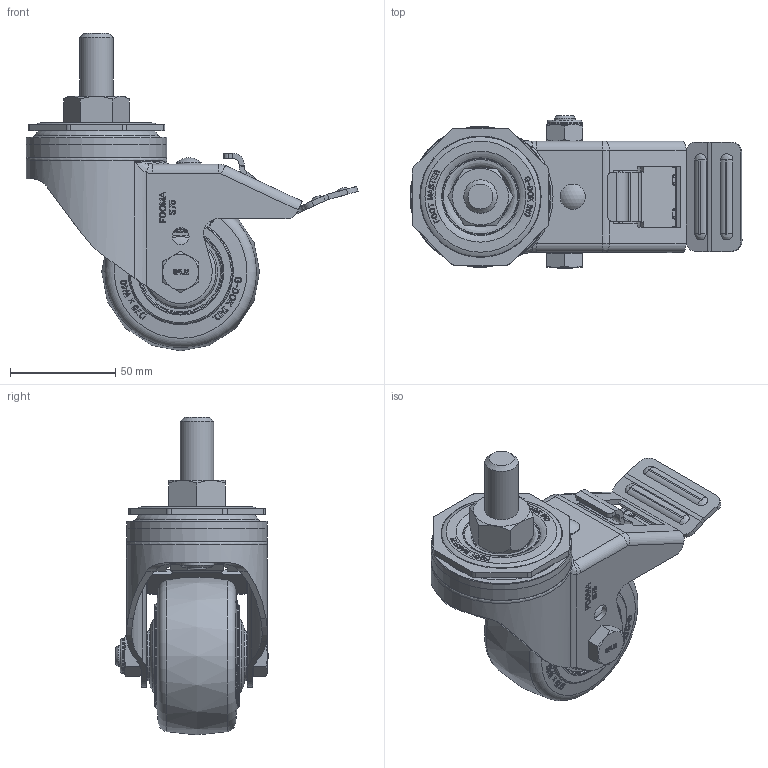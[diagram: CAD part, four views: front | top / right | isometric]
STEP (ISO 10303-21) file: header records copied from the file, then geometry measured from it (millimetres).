
FILE_DESCRIPTION(/* description */ (''),/* implementation_level */ '2;1');
FILE_NAME(/* name */ '\\192.168.10.38\지덕공유\1.기술연구소\2.연구개발 진행중\98.스테인레스캐스터 개발건_2023.10.26\제품설계\3D\홈페이지용\SPLM-75-BSS-HRD.stp',/* time_stamp */ '2025-02-20T15:56:37+09:00',/* author */ ('admin'),/* organization */ ('지덕산업'),/* preprocessor_version */ 'ST-DEVELOPER v18.1',/* originating_system */ 'Autodesk Inventor 2021',/* authorisation */ '');
FILE_SCHEMA (('CONFIG_CONTROL_DESIGN'));
Products named in the file (1): SPLM-75-BSS-HRD
Bounding box: 157.79 x 72.3 x 151 mm (x, y, z)
Volume: 294470.5 mm3; surface area: 68329 mm2
Topology: 1 solids, 1 shells, 1510 faces, 4023 edges, 2622 vertices
Faces by surface type: plane 713, bspline 474, cylinder 180, cone 102, torus 40, sphere 1
Full cylindrical faces by diameter (mm): 6 x1, 8 x2, 9 x1, 10 x2, 11 x1, 12 x1, 15.875 x1, 16 x2, 16.5 x1, 30 x1, 40.105 x1, 40.971 x1, 54 x1, 67 x1
Entity records: 50620 total; most frequent: CARTESIAN_POINT 17370, ORIENTED_EDGE 8038, DIRECTION 5161, EDGE_CURVE 4019, VERTEX_POINT 2622, LINE 1977, VECTOR 1977, EDGE_LOOP 1633
